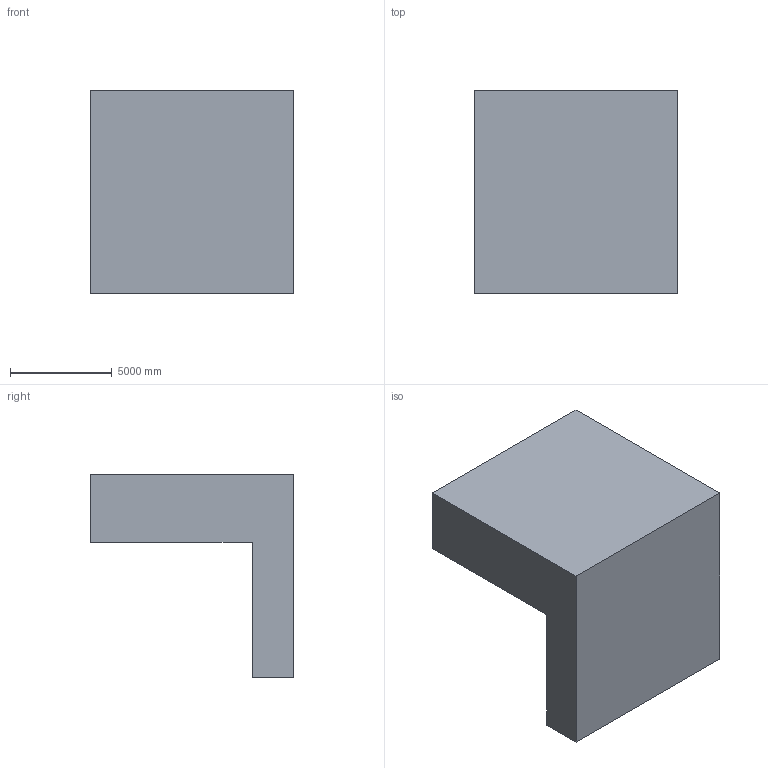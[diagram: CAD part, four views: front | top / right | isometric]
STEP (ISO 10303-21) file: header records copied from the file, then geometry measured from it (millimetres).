
FILE_DESCRIPTION (( 'STEP AP203' ), '1' );
FILE_NAME ('9.STEP', '2022-09-02T13:39:40', ( 'user' ), ( '' ), 'SwSTEP 2.0', 'SolidWorks 2021', '' );
FILE_SCHEMA (( 'CONFIG_CONTROL_DESIGN' ));
Length unit declared in the file: centimetre
Products named in the file (1): 9
Bounding box: 10000 x 10000 x 10000 mm (x, y, z)
Volume: 441553382704.1 mm3; surface area: 504857888.3 mm2
Topology: 1 solids, 1 shells, 11 faces, 24 edges, 16 vertices
Faces by surface type: plane 9, cylinder 2
Entity records: 379 total; most frequent: CARTESIAN_POINT 52, DIRECTION 52, ORIENTED_EDGE 48, EDGE_CURVE 24, LINE 20, VECTOR 20, AXIS2_PLACEMENT_3D 16, VERTEX_POINT 16
